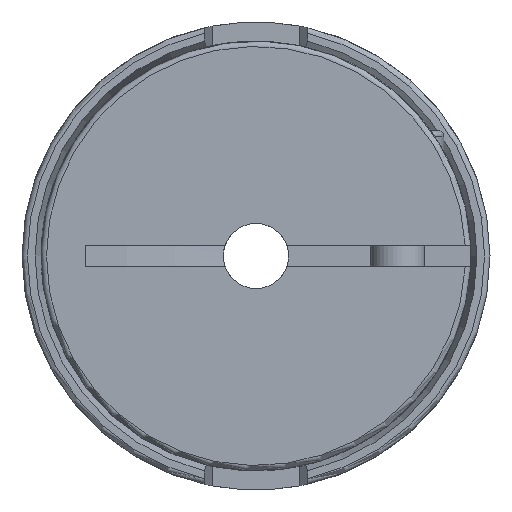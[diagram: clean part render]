
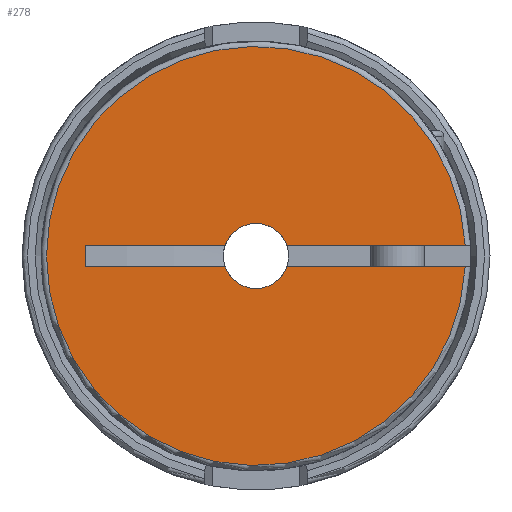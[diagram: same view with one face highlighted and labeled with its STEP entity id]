
A CAD part, left-side view. The second image highlights one B-rep face of the part: STEP entity #278.
In plain terms, the highlighted planar face has unit normal (-1, 0, 0).
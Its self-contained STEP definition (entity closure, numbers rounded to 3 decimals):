
#278 = ADVANCED_FACE( '', ( #685 ), #686, .T. );
#685 = FACE_OUTER_BOUND( '', #1239, .T. );
#686 = PLANE( '', #1240 );
#1239 = EDGE_LOOP( '', ( #1974, #1975, #1976, #1977, #1978, #1979, #1980, #1981 ) );
#1240 = AXIS2_PLACEMENT_3D( '', #1982, #1983, #1984 );
#1974 = ORIENTED_EDGE( '', *, *, #2995, .F. );
#1975 = ORIENTED_EDGE( '', *, *, #2996, .T. );
#1976 = ORIENTED_EDGE( '', *, *, #2997, .F. );
#1977 = ORIENTED_EDGE( '', *, *, #2998, .F. );
#1978 = ORIENTED_EDGE( '', *, *, #2999, .T. );
#1979 = ORIENTED_EDGE( '', *, *, #3000, .T. );
#1980 = ORIENTED_EDGE( '', *, *, #2815, .T. );
#1981 = ORIENTED_EDGE( '', *, *, #3001, .T. );
#1982 = CARTESIAN_POINT( '', ( -42.25, 0., 2.5 ) );
#1983 = DIRECTION( '', ( -1., 0., 0. ) );
#1984 = DIRECTION( '', ( 0., 0., 1. ) );
#2815 = EDGE_CURVE( '', #3268, #3269, #3270, .T. );
#2995 = EDGE_CURVE( '', #3562, #3563, #3564, .T. );
#2996 = EDGE_CURVE( '', #3562, #3565, #3566, .T. );
#2997 = EDGE_CURVE( '', #3567, #3565, #3568, .T. );
#2998 = EDGE_CURVE( '', #3569, #3567, #3570, .T. );
#2999 = EDGE_CURVE( '', #3569, #3571, #3572, .T. );
#3000 = EDGE_CURVE( '', #3571, #3268, #3573, .F. );
#3001 = EDGE_CURVE( '', #3269, #3563, #3574, .T. );
#3268 = VERTEX_POINT( '', #3931 );
#3269 = VERTEX_POINT( '', #3932 );
#3270 = LINE( '', #3933, #3934 );
#3562 = VERTEX_POINT( '', #4490 );
#3563 = VERTEX_POINT( '', #4491 );
#3564 = LINE( '', #4492, #4493 );
#3565 = VERTEX_POINT( '', #4494 );
#3566 = CIRCLE( '', #4495, 3. );
#3567 = VERTEX_POINT( '', #4496 );
#3568 = LINE( '', #4497, #4498 );
#3569 = VERTEX_POINT( '', #4499 );
#3570 = LINE( '', #4500, #4501 );
#3571 = VERTEX_POINT( '', #4502 );
#3572 = LINE( '', #4503, #4504 );
#3573 = CIRCLE( '', #4505, 3. );
#3574 = CIRCLE( '', #4506, 19.25 );
#3931 = CARTESIAN_POINT( '', ( -42.25, -2.828, 1. ) );
#3932 = CARTESIAN_POINT( '', ( -42.25, -19.224, 1. ) );
#3933 = CARTESIAN_POINT( '', ( -42.25, 0., 1. ) );
#3934 = VECTOR( '', #5039, 1000. );
#4490 = CARTESIAN_POINT( '', ( -42.25, -2.828, -1. ) );
#4491 = CARTESIAN_POINT( '', ( -42.25, -19.224, -1. ) );
#4492 = CARTESIAN_POINT( '', ( -42.25, 0., -1. ) );
#4493 = VECTOR( '', #5306, 1000. );
#4494 = CARTESIAN_POINT( '', ( -42.25, 2.828, -1. ) );
#4495 = AXIS2_PLACEMENT_3D( '', #5307, #5308, #5309 );
#4496 = CARTESIAN_POINT( '', ( -42.25, 15.647, -1. ) );
#4497 = CARTESIAN_POINT( '', ( -42.25, 0., -1. ) );
#4498 = VECTOR( '', #5310, 1000. );
#4499 = CARTESIAN_POINT( '', ( -42.25, 15.647, 1. ) );
#4500 = CARTESIAN_POINT( '', ( -42.25, 15.647, 1. ) );
#4501 = VECTOR( '', #5311, 1000. );
#4502 = CARTESIAN_POINT( '', ( -42.25, 2.828, 1. ) );
#4503 = CARTESIAN_POINT( '', ( -42.25, 0., 1. ) );
#4504 = VECTOR( '', #5312, 1000. );
#4505 = AXIS2_PLACEMENT_3D( '', #5313, #5314, #5315 );
#4506 = AXIS2_PLACEMENT_3D( '', #5316, #5317, #5318 );
#5039 = DIRECTION( '', ( 0., -1., 0. ) );
#5306 = DIRECTION( '', ( 0., -1., 0. ) );
#5307 = CARTESIAN_POINT( '', ( -42.25, 0., 0. ) );
#5308 = DIRECTION( '', ( 1., 0., 0. ) );
#5309 = DIRECTION( '', ( 0., -1., 0. ) );
#5310 = DIRECTION( '', ( 0., -1., 0. ) );
#5311 = DIRECTION( '', ( 0., 0., -1. ) );
#5312 = DIRECTION( '', ( 0., -1., 0. ) );
#5313 = CARTESIAN_POINT( '', ( -42.25, 0., 0. ) );
#5314 = DIRECTION( '', ( -1., 0., 0. ) );
#5315 = DIRECTION( '', ( 0., 0., 1. ) );
#5316 = CARTESIAN_POINT( '', ( -42.25, 0., 0. ) );
#5317 = DIRECTION( '', ( -1., 0., 0. ) );
#5318 = DIRECTION( '', ( 0., 0., 1. ) );
